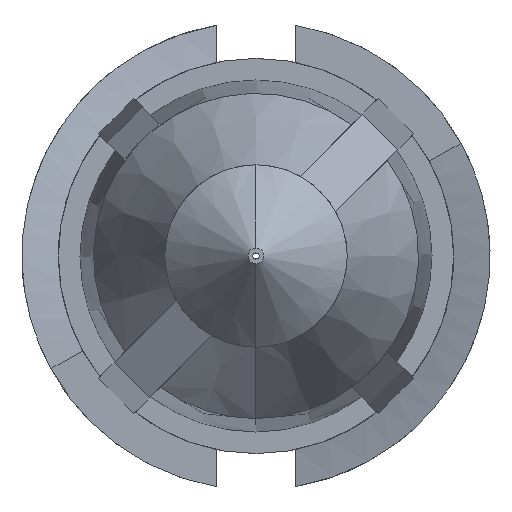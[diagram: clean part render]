
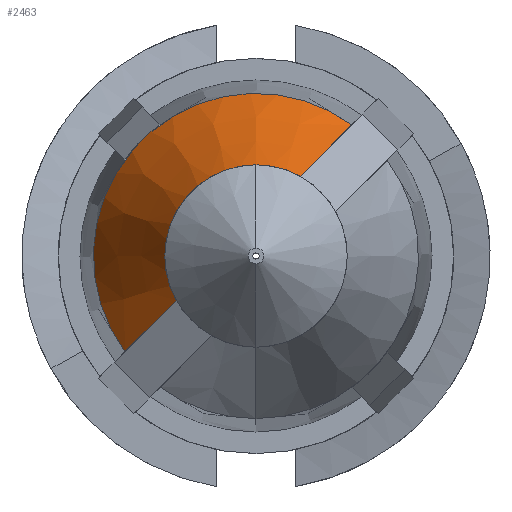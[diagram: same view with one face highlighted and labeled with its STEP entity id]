
A CAD part, left-side view. The second image highlights one B-rep face of the part: STEP entity #2463.
In plain terms, the highlighted conical face has half-angle 23.742 degrees and reference radius 2.674 mm.
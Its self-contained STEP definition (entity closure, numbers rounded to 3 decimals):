
#51 = CARTESIAN_POINT ( 'NONE',  ( 1.262, -10.872, 5.902 ) ) ;
#93 = CARTESIAN_POINT ( 'NONE',  ( 1.262, -9.562, 3.671 ) ) ;
#104 = VERTEX_POINT ( 'NONE', #51 ) ;
#121 = DIRECTION ( 'NONE',  ( 1., 0., 0. ) ) ;
#193 = DIRECTION ( 'NONE',  ( 1., 0., 0. ) ) ;
#258 = CIRCLE ( 'NONE', #1978, 1.5 ) ;
#291 = EDGE_CURVE ( 'NONE', #3070, #2428, #907, .T. ) ;
#450 = AXIS2_PLACEMENT_3D ( 'NONE', #2307, #193, #709 ) ;
#582 = DIRECTION ( 'NONE',  ( 0., 0., -1. ) ) ;
#596 = CARTESIAN_POINT ( 'NONE',  ( 1.262, -10.872, 4.402 ) ) ;
#709 = DIRECTION ( 'NONE',  ( 0., 0., -1. ) ) ;
#796 = ORIENTED_EDGE ( 'NONE', *, *, #1408, .T. ) ;
#818 = CARTESIAN_POINT ( 'NONE',  ( 2.149, -9.275, 3.384 ) ) ;
#907 = B_SPLINE_CURVE_WITH_KNOTS ( 'NONE', 3,
 ( #2723, #1816, #818, #1563 ),
 .UNSPECIFIED., .F., .F.,
 ( 4, 4 ),
 ( 0., 0.003 ),
 .UNSPECIFIED. ) ;
#911 = CIRCLE ( 'NONE', #1692, 2.674 ) ;
#921 = EDGE_CURVE ( 'NONE', #104, #2172, #258, .T. ) ;
#956 = B_SPLINE_CURVE_WITH_KNOTS ( 'NONE', 3,
 ( #2438, #2222, #1776, #1075 ),
 .UNSPECIFIED., .F., .F.,
 ( 4, 4 ),
 ( 0., 0.003 ),
 .UNSPECIFIED. ) ;
#1006 = ORIENTED_EDGE ( 'NONE', *, *, #921, .T. ) ;
#1075 = CARTESIAN_POINT ( 'NONE',  ( 1.262, -11.603, 5.712 ) ) ;
#1093 = DIRECTION ( 'NONE',  ( 0., 0., -1. ) ) ;
#1123 = EDGE_CURVE ( 'NONE', #3070, #3019, #911, .T. ) ;
#1310 = DIRECTION ( 'NONE',  ( 1., 0., 0. ) ) ;
#1408 = EDGE_CURVE ( 'NONE', #2428, #104, #1689, .T. ) ;
#1423 = CARTESIAN_POINT ( 'NONE',  ( 3.932, -12.451, 6.56 ) ) ;
#1440 = ORIENTED_EDGE ( 'NONE', *, *, #1123, .F. ) ;
#1454 = FACE_OUTER_BOUND ( 'NONE', #2033, .T. ) ;
#1510 = CARTESIAN_POINT ( 'NONE',  ( 1.262, -11.603, 5.712 ) ) ;
#1563 = CARTESIAN_POINT ( 'NONE',  ( 1.262, -9.562, 3.671 ) ) ;
#1564 = DIRECTION ( 'NONE',  ( 0., 0., -1. ) ) ;
#1576 = ORIENTED_EDGE ( 'NONE', *, *, #1873, .F. ) ;
#1689 = CIRCLE ( 'NONE', #450, 1.5 ) ;
#1692 = AXIS2_PLACEMENT_3D ( 'NONE', #1772, #2238, #1564 ) ;
#1772 = CARTESIAN_POINT ( 'NONE',  ( 3.932, -10.872, 4.402 ) ) ;
#1776 = CARTESIAN_POINT ( 'NONE',  ( 2.149, -11.89, 5.999 ) ) ;
#1816 = CARTESIAN_POINT ( 'NONE',  ( 3.04, -8.994, 3.103 ) ) ;
#1873 = EDGE_CURVE ( 'NONE', #3019, #2172, #956, .T. ) ;
#1978 = AXIS2_PLACEMENT_3D ( 'NONE', #596, #1310, #1093 ) ;
#1989 = CONICAL_SURFACE ( 'NONE', #2383, 2.674, 0.414 ) ;
#1999 = CARTESIAN_POINT ( 'NONE',  ( 3.932, -10.872, 4.402 ) ) ;
#2033 = EDGE_LOOP ( 'NONE', ( #1576, #1440, #2520, #796, #1006 ) ) ;
#2172 = VERTEX_POINT ( 'NONE', #1510 ) ;
#2222 = CARTESIAN_POINT ( 'NONE',  ( 3.04, -12.171, 6.28 ) ) ;
#2238 = DIRECTION ( 'NONE',  ( 1., 0., 0. ) ) ;
#2307 = CARTESIAN_POINT ( 'NONE',  ( 1.262, -10.872, 4.402 ) ) ;
#2383 = AXIS2_PLACEMENT_3D ( 'NONE', #1999, #121, #582 ) ;
#2419 = CARTESIAN_POINT ( 'NONE',  ( 3.932, -8.714, 2.823 ) ) ;
#2428 = VERTEX_POINT ( 'NONE', #93 ) ;
#2438 = CARTESIAN_POINT ( 'NONE',  ( 3.932, -12.451, 6.56 ) ) ;
#2463 = ADVANCED_FACE ( 'NONE', ( #1454 ), #1989, .T. ) ;
#2520 = ORIENTED_EDGE ( 'NONE', *, *, #291, .T. ) ;
#2723 = CARTESIAN_POINT ( 'NONE',  ( 3.932, -8.714, 2.823 ) ) ;
#3019 = VERTEX_POINT ( 'NONE', #1423 ) ;
#3070 = VERTEX_POINT ( 'NONE', #2419 ) ;
